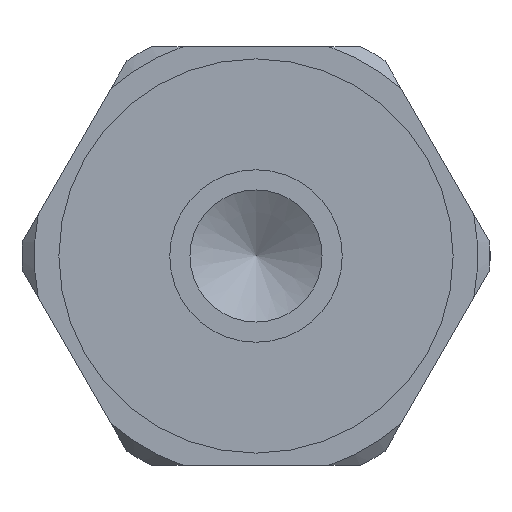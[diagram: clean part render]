
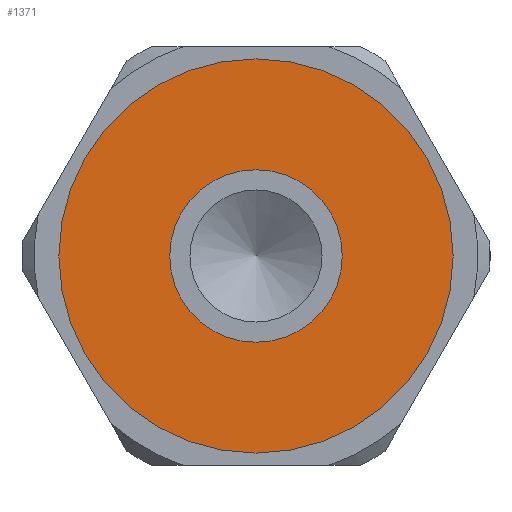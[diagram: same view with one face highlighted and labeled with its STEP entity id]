
A CAD part, left-side view. The second image highlights one B-rep face of the part: STEP entity #1371.
In plain terms, the highlighted planar face has unit normal (-1, 0, 0).
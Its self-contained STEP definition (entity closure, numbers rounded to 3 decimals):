
#262=FACE_BOUND('',#433,.T.);
#339=FACE_OUTER_BOUND('',#432,.T.);
#432=EDGE_LOOP('',(#1240,#1241));
#433=EDGE_LOOP('',(#1242,#1243));
#493=CIRCLE('',#1563,3.5);
#494=CIRCLE('',#1564,3.5);
#529=CIRCLE('',#1633,8.);
#530=CIRCLE('',#1634,8.);
#603=VERTEX_POINT('',#2322);
#604=VERTEX_POINT('',#2323);
#663=VERTEX_POINT('',#2557);
#664=VERTEX_POINT('',#2558);
#764=EDGE_CURVE('',#603,#604,#493,.T.);
#765=EDGE_CURVE('',#604,#603,#494,.T.);
#857=EDGE_CURVE('',#663,#664,#529,.T.);
#858=EDGE_CURVE('',#664,#663,#530,.T.);
#1240=ORIENTED_EDGE('',*,*,#857,.T.);
#1241=ORIENTED_EDGE('',*,*,#858,.T.);
#1242=ORIENTED_EDGE('',*,*,#764,.T.);
#1243=ORIENTED_EDGE('',*,*,#765,.T.);
#1293=PLANE('',#1635);
#1371=ADVANCED_FACE('',(#339,#262),#1293,.T.);
#1563=AXIS2_PLACEMENT_3D('',#2324,#1880,#1881);
#1564=AXIS2_PLACEMENT_3D('',#2325,#1882,#1883);
#1633=AXIS2_PLACEMENT_3D('',#2559,#2053,#2054);
#1634=AXIS2_PLACEMENT_3D('',#2560,#2055,#2056);
#1635=AXIS2_PLACEMENT_3D('',#2562,#2058,#2059);
#1880=DIRECTION('center_axis',(1.,0.,0.));
#1881=DIRECTION('ref_axis',(0.,0.,1.));
#1882=DIRECTION('center_axis',(1.,0.,0.));
#1883=DIRECTION('ref_axis',(0.,0.,1.));
#2053=DIRECTION('center_axis',(-1.,0.,0.));
#2054=DIRECTION('ref_axis',(0.,0.,1.));
#2055=DIRECTION('center_axis',(-1.,0.,0.));
#2056=DIRECTION('ref_axis',(0.,0.,1.));
#2058=DIRECTION('center_axis',(-1.,0.,0.));
#2059=DIRECTION('ref_axis',(0.,0.,1.));
#2322=CARTESIAN_POINT('',(-30.697,0.,11.201));
#2323=CARTESIAN_POINT('',(-30.697,0.,4.201));
#2324=CARTESIAN_POINT('Origin',(-30.697,0.,7.701));
#2325=CARTESIAN_POINT('Origin',(-30.697,0.,7.701));
#2557=CARTESIAN_POINT('',(-30.697,0.,15.701));
#2558=CARTESIAN_POINT('',(-30.697,0.,-0.299));
#2559=CARTESIAN_POINT('Origin',(-30.697,0.,7.701));
#2560=CARTESIAN_POINT('Origin',(-30.697,0.,7.701));
#2562=CARTESIAN_POINT('Origin',(-30.697,0.,7.701));
